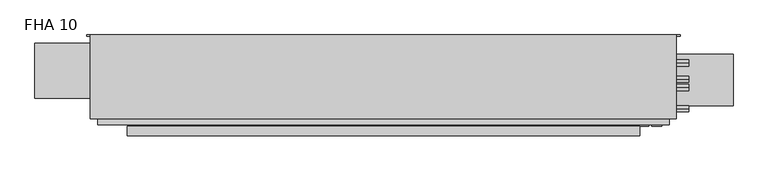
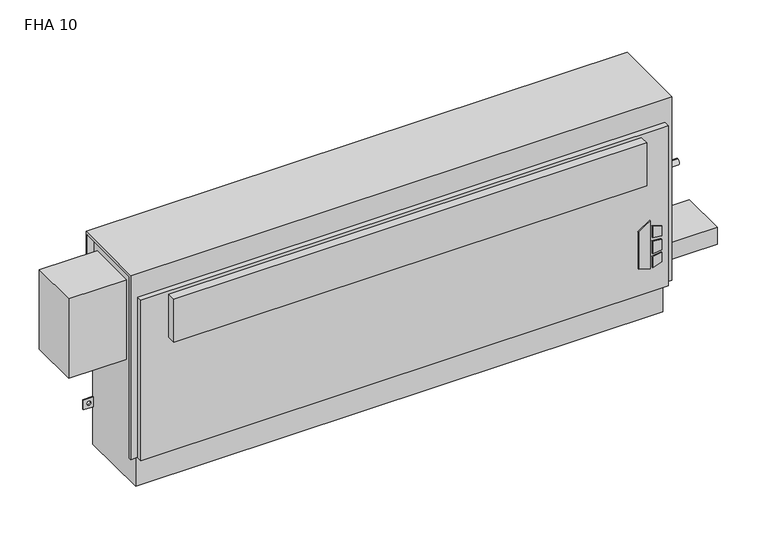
"""IFC4 building model written with IfcOpenShell, lengths in millimetres: proxy geometry, Vertical_Fan_Coil_Unit_-_FHA_-_IEC_-_4-Pipe_FS-FR_RH_2022 : FHA 10."""

from ifc_helpers import new_model, si_unit, point, frame, frame_2d, origin, place, context, project, spatial, polyline, circle_curve, trimmed, segment, composite_curve, outline, extrude, source, transform, mapped, element, save
from ifc_brep_helpers import plane_surface, revolved_surface, advanced_brep


def fha_10_a3db949a(model_context):
    return source(origin(), model_context, "Body", "SolidModel", [
        extrude(outline(polyline([(172.5771459, 804.9368862), (162.6290756, 837.1102728), (304.8, 837.1102728), (281.7779939, 804.9368862), (172.5771459, 804.9368862)])), frame((0.0, 9.525, 0.0), z_axis=(0.0, 1.0, 0.0), x_axis=(0.0, 0.0, 1.0)), (0.0, 0.0, 1.0), 3.175),
        extrude(outline(polyline([(251.5764313, 843.8686058), (248.3740387, 869.95), (277.6028798, 869.95), (285.6672948, 843.8686058), (251.5764313, 843.8686058)])), frame((0.0, 9.525, 0.0), z_axis=(0.0, 1.0, 0.0), x_axis=(0.0, 0.0, 1.0)), (0.0, 0.0, 1.0), 3.175),
        extrude(outline(polyline([(199.7129044, 869.95), (196.0474034, 843.8686058), (162.6290756, 843.8686058), (171.2633128, 869.95), (199.7129044, 869.95)])), frame((0.0, 9.525, 0.0), z_axis=(0.0, 1.0, 0.0), x_axis=(0.0, 0.0, 1.0)), (0.0, 0.0, 1.0), 3.175),
        extrude(outline(polyline([(239.0280658, 869.95), (241.3098921, 843.8686058), (205.3723436, 843.8686058), (208.1136086, 869.95), (239.0280658, 869.95)])), frame((0.0, 9.525, 0.0), z_axis=(0.0, 1.0, 0.0), x_axis=(0.0, 0.0, 1.0)), (0.0, 0.0, 1.0), 3.175),
        extrude(outline(composite_curve([segment(trimmed(circle_curve(frame_2d((952.5, 128.5875)), 9.525), [point((942.975, 128.5875))], [point((962.025, 128.5875))], False, "CARTESIAN"), True, "CONTINUOUS"), segment(trimmed(circle_curve(frame_2d((952.5, 128.5875)), 9.525), [point((962.025, 128.5875))], [point((942.975, 128.5875))], False, "CARTESIAN"), True, "CONTINUOUS")], self_intersect=False)), frame((0.0, 0.0, 101.6), z_axis=(0.0, 0.0, 1.0), x_axis=(1.0, 0.0, 0.0)), (0.0, 0.0, 1.0), 25.4),
        extrude(outline(polyline([(1054.1, 195.2625), (1054.1, 61.9125), (889.0, 61.9125), (889.0, 195.2625), (1054.1, 195.2625)])), frame((0.0, 0.0, 127.0), z_axis=(0.0, 0.0, 1.0), x_axis=(1.0, 0.0, 0.0)), (0.0, 0.0, 1.0), 50.8),
        extrude(outline(polyline([(812.8, -15.875), (-508.0, -15.875), (-508.0, 9.525), (812.8, 9.525), (812.8, -15.875)])), frame((0.0, 0.0, 431.8), z_axis=(0.0, 0.0, 1.0), x_axis=(1.0, 0.0, 0.0)), (0.0, 0.0, 1.0), 127.0),
        extrude(outline(composite_curve([segment(trimmed(circle_curve(frame_2d((109.0168, 460.0194)), 7.9375), [point((109.0168, 452.0819))], [point((109.0168, 467.9569))], False, "CARTESIAN"), True, "CONTINUOUS"), segment(trimmed(circle_curve(frame_2d((109.0168, 460.0194)), 7.9375), [point((109.0168, 467.9569))], [point((109.0168, 452.0819))], False, "CARTESIAN"), True, "CONTINUOUS")], self_intersect=False)), frame((889.0, 0.0, 0.0), z_axis=(1.0, 0.0, 0.0), x_axis=(0.0, 1.0, 0.0)), (0.0, 0.0, 1.0), 50.8),
        extrude(outline(composite_curve([segment(trimmed(circle_curve(frame_2d((172.085, 460.0194)), 7.9375), [point((172.085, 452.0819))], [point((172.085, 467.9569))], False, "CARTESIAN"), True, "CONTINUOUS"), segment(trimmed(circle_curve(frame_2d((172.085, 460.0194)), 7.9375), [point((172.085, 467.9569))], [point((172.085, 452.0819))], False, "CARTESIAN"), True, "CONTINUOUS")], self_intersect=False)), frame((889.0, 0.0, 0.0), z_axis=(1.0, 0.0, 0.0), x_axis=(0.0, 1.0, 0.0)), (0.0, 0.0, 1.0), 50.8),
        extrude(outline(composite_curve([segment(trimmed(circle_curve(frame_2d((130.175, 554.99)), 7.9502), [point((130.175, 547.0398))], [point((130.175, 562.9402))], False, "CARTESIAN"), True, "CONTINUOUS"), segment(trimmed(circle_curve(frame_2d((130.175, 554.99)), 7.9502), [point((130.175, 562.9402))], [point((130.175, 547.0398))], False, "CARTESIAN"), True, "CONTINUOUS")], self_intersect=False)), frame((889.0, 0.0, 0.0), z_axis=(1.0, 0.0, 0.0), x_axis=(0.0, 1.0, 0.0)), (0.0, 0.0, 1.0), 50.8),
        extrude(outline(composite_curve([segment(trimmed(circle_curve(frame_2d((53.975, 416.56)), 7.9502), [point((53.975, 408.6098))], [point((53.975, 424.5102))], False, "CARTESIAN"), True, "CONTINUOUS"), segment(trimmed(circle_curve(frame_2d((53.975, 416.56)), 7.9502), [point((53.975, 424.5102))], [point((53.975, 408.6098))], False, "CARTESIAN"), True, "CONTINUOUS")], self_intersect=False)), frame((889.0, 0.0, 0.0), z_axis=(1.0, 0.0, 0.0), x_axis=(0.0, 1.0, 0.0)), (0.0, 0.0, 1.0), 50.8),
        extrude(outline(polyline([(-584.2, 223.266), (-584.2, 81.534), (-746.125, 81.534), (-746.125, 223.266), (-584.2, 223.266)])), frame((0.0, 0.0, 349.25), z_axis=(0.0, 0.0, 1.0), x_axis=(1.0, 0.0, 0.0)), (0.0, 0.0, 1.0), 234.95),
        advanced_brep(
        [(908.05, 244.475, 635.0), (-603.25, 244.475, 635.0), (-603.25, 28.575, 635.0), (908.05, 28.575, 635.0), (-584.2, 244.475, 0.0), (889.0, 244.475, 0.0), (889.0, 38.1, 0.0), (-584.2, 38.1, 0.0), (908.05, 244.475, 558.8), (889.0, 244.475, 558.8), (889.0, 244.475, 414.3375), (917.575, 244.475, 414.3375), (917.575, 244.475, 385.7625), (889.0, 244.475, 385.7625), (889.0, 244.475, 287.3375), (917.575, 244.475, 287.3375), (917.575, 244.475, 258.7625), (889.0, 244.475, 258.7625), (889.0, 244.475, 141.2875), (917.575, 244.475, 141.2875), (917.575, 244.475, 112.7125), (889.0, 244.475, 112.7125), (-584.2, 244.475, 112.7125), (-612.775, 244.475, 112.7125), (-612.775, 244.475, 141.2875), (-584.2, 244.475, 141.2875), (-584.2, 244.475, 258.7625), (-612.775, 244.475, 258.7625), (-612.775, 244.475, 287.3375), (-584.2, 244.475, 287.3375), (-584.2, 244.475, 385.7625), (-612.775, 244.475, 385.7625), (-612.775, 244.475, 414.3375), (-584.2, 244.475, 414.3375), (-584.2, 244.475, 558.8), (-603.25, 244.475, 558.8), (907.2626, 244.475, 127.0), (896.1374, 244.475, 127.0), (-591.3374, 244.475, 127.0), (-602.4626, 244.475, 127.0), (907.2626, 244.475, 273.05), (896.1374, 244.475, 273.05), (-591.3374, 244.475, 273.05), (-602.4626, 244.475, 273.05), (907.2626, 244.475, 400.05), (896.1374, 244.475, 400.05), (-591.3374, 244.475, 400.05), (-602.4626, 244.475, 400.05), (-603.25, 238.125, 558.8), (-603.25, 238.125, 628.65), (-603.25, 34.925, 628.65), (-603.25, 34.925, 92.075), (-603.25, 28.575, 92.075), (889.0, 12.7, 565.15), (-584.2, 12.7, 565.15), (-584.2, 12.7, 92.075), (889.0, 12.7, 92.075), (908.05, 28.575, 92.075), (908.05, 34.925, 92.075), (908.05, 34.925, 628.65), (908.05, 238.125, 628.65), (908.05, 238.125, 558.8), (-584.2, 28.575, 92.075), (-584.2, 28.575, 565.15), (889.0, 28.575, 565.15), (889.0, 28.575, 92.075), (-584.2, 34.925, 92.075), (-584.2, 38.1, 92.075), (889.0, 38.1, 92.075), (889.0, 34.925, 92.075), (889.0, 241.3, 112.7125), (889.0, 241.3, 141.2875), (889.0, 241.3, 258.7625), (889.0, 241.3, 287.3375), (889.0, 241.3, 385.7625), (889.0, 241.3, 414.3375), (889.0, 238.125, 558.8), (889.0, 238.125, 628.65), (889.0, 34.925, 628.65), (-584.2, 34.925, 628.65), (-584.2, 238.125, 628.65), (-584.2, 238.125, 558.8), (-584.2, 241.3, 414.3375), (-584.2, 241.3, 385.7625), (-584.2, 241.3, 287.3375), (-584.2, 241.3, 258.7625), (-584.2, 241.3, 141.2875), (-584.2, 241.3, 112.7125), (917.575, 241.3, 112.7125), (917.575, 241.3, 141.2875), (896.1374, 241.3, 127.0), (907.2626, 241.3, 127.0), (917.575, 241.3, 258.7625), (917.575, 241.3, 287.3375), (896.1374, 241.3, 273.05), (907.2626, 241.3, 273.05), (917.575, 241.3, 385.7625), (917.575, 241.3, 414.3375), (896.1374, 241.3, 400.05), (907.2626, 241.3, 400.05), (-612.775, 241.3, 141.2875), (-612.775, 241.3, 112.7125), (-602.4626, 241.3, 127.0), (-591.3374, 241.3, 127.0), (-612.775, 241.3, 287.3375), (-612.775, 241.3, 258.7625), (-602.4626, 241.3, 273.05), (-591.3374, 241.3, 273.05), (-612.775, 241.3, 414.3375), (-612.775, 241.3, 385.7625), (-602.4626, 241.3, 400.05), (-591.3374, 241.3, 400.05)],
        [
            (0, 1),
            (1, 2),
            (2, 3),
            (3, 0),
            (4, 5),
            (5, 6),
            (6, 7),
            (7, 4),
            (0, 8),
            (8, 9),
            (9, 10),
            (10, 11),
            (11, 12),
            (12, 13),
            (13, 14),
            (14, 15),
            (15, 16),
            (16, 17),
            (17, 18),
            (18, 19),
            (19, 20),
            (20, 21),
            (21, 5),
            (4, 22),
            (22, 23),
            (23, 24),
            (24, 25),
            (25, 26),
            (26, 27),
            (27, 28),
            (28, 29),
            (29, 30),
            (30, 31),
            (31, 32),
            (32, 33),
            (33, 34),
            (34, 35),
            (35, 1),
            (36, 37, circle_curve(frame((901.7, 244.475, 127.0), z_axis=(0.0, -1.0, 0.0), x_axis=(-1.0, 0.0, 0.0)), 5.5626)),
            (37, 36, circle_curve(frame((901.7, 244.475, 127.0), z_axis=(0.0, -1.0, 0.0), x_axis=(-1.0, 0.0, 0.0)), 5.5626)),
            (38, 39, circle_curve(frame((-596.9, 244.475, 127.0), z_axis=(0.0, -1.0, 0.0), x_axis=(-1.0, 0.0, 0.0)), 5.5626)),
            (39, 38, circle_curve(frame((-596.9, 244.475, 127.0), z_axis=(0.0, -1.0, 0.0), x_axis=(-1.0, 0.0, 0.0)), 5.5626)),
            (40, 41, circle_curve(frame((901.7, 244.475, 273.05), z_axis=(0.0, -1.0, 0.0), x_axis=(-1.0, 0.0, 0.0)), 5.5626)),
            (41, 40, circle_curve(frame((901.7, 244.475, 273.05), z_axis=(0.0, -1.0, 0.0), x_axis=(-1.0, 0.0, 0.0)), 5.5626)),
            (42, 43, circle_curve(frame((-596.9, 244.475, 273.05), z_axis=(0.0, -1.0, 0.0), x_axis=(-1.0, 0.0, 0.0)), 5.5626)),
            (43, 42, circle_curve(frame((-596.9, 244.475, 273.05), z_axis=(0.0, -1.0, 0.0), x_axis=(-1.0, 0.0, 0.0)), 5.5626)),
            (44, 45, circle_curve(frame((901.7, 244.475, 400.05), z_axis=(0.0, -1.0, 0.0), x_axis=(-1.0, 0.0, 0.0)), 5.5626)),
            (45, 44, circle_curve(frame((901.7, 244.475, 400.05), z_axis=(0.0, -1.0, 0.0), x_axis=(-1.0, 0.0, 0.0)), 5.5626)),
            (46, 47, circle_curve(frame((-596.9, 244.475, 400.05), z_axis=(0.0, -1.0, 0.0), x_axis=(-1.0, 0.0, 0.0)), 5.5626)),
            (47, 46, circle_curve(frame((-596.9, 244.475, 400.05), z_axis=(0.0, -1.0, 0.0), x_axis=(-1.0, 0.0, 0.0)), 5.5626)),
            (35, 48),
            (48, 49),
            (49, 50),
            (50, 51),
            (51, 52),
            (52, 2),
            (53, 54),
            (54, 55),
            (55, 56),
            (56, 53),
            (3, 57),
            (57, 58),
            (58, 59),
            (59, 60),
            (60, 61),
            (61, 8),
            (52, 62),
            (62, 63),
            (63, 64),
            (64, 65),
            (65, 57),
            (53, 64),
            (63, 54),
            (55, 62),
            (51, 66),
            (66, 67),
            (67, 68),
            (68, 69),
            (69, 58),
            (65, 56),
            (6, 68),
            (67, 7),
            (21, 70),
            (70, 71),
            (71, 18),
            (17, 72),
            (72, 73),
            (73, 14),
            (13, 74),
            (74, 75),
            (75, 10),
            (9, 76),
            (76, 77),
            (77, 78),
            (78, 69),
            (66, 79),
            (79, 80),
            (80, 81),
            (81, 34),
            (33, 82),
            (82, 83),
            (83, 30),
            (29, 84),
            (84, 85),
            (85, 26),
            (25, 86),
            (86, 87),
            (87, 22),
            (76, 61),
            (60, 77),
            (78, 59),
            (50, 79),
            (81, 48),
            (80, 49),
            (70, 88),
            (88, 89),
            (89, 71),
            (90, 91, circle_curve(frame((901.7, 241.3, 127.0), z_axis=(0.0, 1.0, 0.0), x_axis=(-1.0, 0.0, 0.0)), 5.5626)),
            (91, 90, circle_curve(frame((901.7, 241.3, 127.0), z_axis=(0.0, 1.0, 0.0), x_axis=(-1.0, 0.0, 0.0)), 5.5626)),
            (92, 93),
            (93, 73),
            (72, 92),
            (94, 95, circle_curve(frame((901.7, 241.3, 273.05), z_axis=(0.0, 1.0, 0.0), x_axis=(-1.0, 0.0, 0.0)), 5.5626)),
            (95, 94, circle_curve(frame((901.7, 241.3, 273.05), z_axis=(0.0, 1.0, 0.0), x_axis=(-1.0, 0.0, 0.0)), 5.5626)),
            (96, 97),
            (97, 75),
            (74, 96),
            (98, 99, circle_curve(frame((901.7, 241.3, 400.05), z_axis=(0.0, 1.0, 0.0), x_axis=(-1.0, 0.0, 0.0)), 5.5626)),
            (99, 98, circle_curve(frame((901.7, 241.3, 400.05), z_axis=(0.0, 1.0, 0.0), x_axis=(-1.0, 0.0, 0.0)), 5.5626)),
            (100, 101),
            (101, 87),
            (86, 100),
            (102, 103, circle_curve(frame((-596.9, 241.3, 127.0), z_axis=(0.0, 1.0, 0.0), x_axis=(-1.0, 0.0, 0.0)), 5.5626)),
            (103, 102, circle_curve(frame((-596.9, 241.3, 127.0), z_axis=(0.0, 1.0, 0.0), x_axis=(-1.0, 0.0, 0.0)), 5.5626)),
            (84, 104),
            (104, 105),
            (105, 85),
            (106, 107, circle_curve(frame((-596.9, 241.3, 273.05), z_axis=(0.0, 1.0, 0.0), x_axis=(-1.0, 0.0, 0.0)), 5.5626)),
            (107, 106, circle_curve(frame((-596.9, 241.3, 273.05), z_axis=(0.0, 1.0, 0.0), x_axis=(-1.0, 0.0, 0.0)), 5.5626)),
            (108, 109),
            (109, 83),
            (82, 108),
            (110, 111, circle_curve(frame((-596.9, 241.3, 400.05), z_axis=(0.0, 1.0, 0.0), x_axis=(-1.0, 0.0, 0.0)), 5.5626)),
            (111, 110, circle_curve(frame((-596.9, 241.3, 400.05), z_axis=(0.0, 1.0, 0.0), x_axis=(-1.0, 0.0, 0.0)), 5.5626)),
            (89, 19),
            (88, 20),
            (16, 92),
            (93, 15),
            (12, 96),
            (97, 11),
            (24, 100),
            (101, 23),
            (105, 27),
            (104, 28),
            (32, 108),
            (109, 31),
            (90, 37),
            (36, 91),
            (102, 39),
            (38, 103),
            (94, 41),
            (40, 95),
            (106, 43),
            (42, 107),
            (98, 45),
            (44, 99),
            (110, 47),
            (46, 111),
        ],
        [
            plane_surface(frame((-603.25, 244.475, 635.0), z_axis=(0.0, 0.0, 1.0), x_axis=(-1.0, 0.0, 0.0))),
            plane_surface(frame((-603.25, 244.475, 0.0), z_axis=(0.0, 0.0, -1.0), x_axis=(1.0, 0.0, 0.0))),
            plane_surface(frame((908.05, 244.475, 635.0), z_axis=(0.0, 1.0, 0.0), x_axis=(0.0, 0.0, -1.0))),
            plane_surface(frame((-603.25, 244.475, 635.0), z_axis=(-1.0, 0.0, 0.0), x_axis=(0.0, 0.0, -1.0))),
            plane_surface(frame((-603.25, 12.7, 635.0), z_axis=(0.0, -1.0, 0.0), x_axis=(0.0, 0.0, -1.0))),
            plane_surface(frame((908.05, 12.7, 635.0), z_axis=(1.0, 0.0, 0.0), x_axis=(0.0, 0.0, -1.0))),
            plane_surface(frame((-1060.45, 28.575, 635.0), z_axis=(0.0, -1.0, 0.0), x_axis=(1.0, 0.0, 0.0))),
            plane_surface(frame((-1060.45, 28.575, 565.15), z_axis=(0.0, 0.0, 1.0), x_axis=(1.0, 0.0, 0.0))),
            plane_surface(frame((-603.25, 12.7, 92.075), z_axis=(0.0, 0.0, -1.0), x_axis=(1.0, 0.0, 0.0))),
            plane_surface(frame((-603.25, 38.1, 92.075), z_axis=(0.0, -1.0, 0.0), x_axis=(1.0, 0.0, 0.0))),
            plane_surface(frame((889.0, 28.575, 92.075), z_axis=(1.0, 0.0, 0.0), x_axis=(0.0, -1.0, 0.0))),
            plane_surface(frame((-584.2, 28.575, 565.15), z_axis=(-1.0, 0.0, 0.0), x_axis=(0.0, -1.0, 0.0))),
            plane_surface(frame((889.0, 244.475, 0.0), z_axis=(1.0, 0.0, 0.0), x_axis=(0.0, -1.0, 0.0))),
            plane_surface(frame((-584.2, 244.475, 92.075), z_axis=(-1.0, 0.0, 0.0), x_axis=(0.0, -1.0, 0.0))),
            plane_surface(frame((889.0, 238.125, 628.65), z_axis=(0.0, -1.0, 0.0), x_axis=(1.0, 0.0, 0.0))),
            plane_surface(frame((889.0, 238.125, 558.8), z_axis=(0.0, 0.0, -1.0), x_axis=(1.0, 0.0, 0.0))),
            plane_surface(frame((889.0, 34.925, 92.075), z_axis=(0.0, 1.0, 0.0), x_axis=(1.0, 0.0, 0.0))),
            plane_surface(frame((889.0, 34.925, 628.65), z_axis=(0.0, 0.0, -1.0), x_axis=(1.0, 0.0, 0.0))),
            plane_surface(frame((-584.2, 34.925, 628.65), z_axis=(0.0, 1.0, 0.0), x_axis=(-1.0, 0.0, 0.0))),
            plane_surface(frame((-584.2, 244.475, 558.8), z_axis=(0.0, 0.0, -1.0), x_axis=(-1.0, 0.0, 0.0))),
            plane_surface(frame((-584.2, 238.125, 558.8), z_axis=(0.0, -1.0, 0.0), x_axis=(-1.0, 0.0, 0.0))),
            plane_surface(frame((-584.2, 238.125, 628.65), z_axis=(0.0, 0.0, -1.0), x_axis=(-1.0, 0.0, 0.0))),
            plane_surface(frame((917.575, 241.3, 141.2875), z_axis=(0.0, -1.0, 0.0), x_axis=(-1.0, 0.0, 0.0))),
            plane_surface(frame((889.0, 244.475, 141.2875), z_axis=(0.0, 0.0, 1.0), x_axis=(0.0, -1.0, 0.0))),
            plane_surface(frame((917.575, 244.475, 141.2875), z_axis=(1.0, 0.0, 0.0), x_axis=(0.0, -1.0, 0.0))),
            plane_surface(frame((917.575, 244.475, 112.7125), z_axis=(0.0, 0.0, -1.0), x_axis=(0.0, -1.0, 0.0))),
            plane_surface(frame((917.575, 244.475, 258.7625), z_axis=(0.0, 0.0, -1.0), x_axis=(0.0, -1.0, 0.0))),
            plane_surface(frame((889.0, 244.475, 287.3375), z_axis=(0.0, 0.0, 1.0), x_axis=(0.0, -1.0, 0.0))),
            plane_surface(frame((917.575, 244.475, 287.3375), z_axis=(1.0, 0.0, 0.0), x_axis=(0.0, -1.0, 0.0))),
            plane_surface(frame((917.575, 244.475, 385.7625), z_axis=(0.0, 0.0, -1.0), x_axis=(0.0, -1.0, 0.0))),
            plane_surface(frame((889.0, 244.475, 414.3375), z_axis=(0.0, 0.0, 1.0), x_axis=(0.0, -1.0, 0.0))),
            plane_surface(frame((917.575, 244.475, 414.3375), z_axis=(1.0, 0.0, 0.0), x_axis=(0.0, -1.0, 0.0))),
            plane_surface(frame((-612.775, 244.475, 141.2875), z_axis=(0.0, 0.0, 1.0), x_axis=(0.0, -1.0, 0.0))),
            plane_surface(frame((-584.2, 244.475, 112.7125), z_axis=(0.0, 0.0, -1.0), x_axis=(0.0, -1.0, 0.0))),
            plane_surface(frame((-612.775, 244.475, 112.7125), z_axis=(-1.0, 0.0, 0.0), x_axis=(0.0, -1.0, 0.0))),
            plane_surface(frame((-584.2, 244.475, 258.7625), z_axis=(0.0, 0.0, -1.0), x_axis=(0.0, -1.0, 0.0))),
            plane_surface(frame((-612.775, 244.475, 258.7625), z_axis=(-1.0, 0.0, 0.0), x_axis=(0.0, -1.0, 0.0))),
            plane_surface(frame((-612.775, 244.475, 287.3375), z_axis=(0.0, 0.0, 1.0), x_axis=(0.0, -1.0, 0.0))),
            plane_surface(frame((-612.775, 244.475, 414.3375), z_axis=(0.0, 0.0, 1.0), x_axis=(0.0, -1.0, 0.0))),
            plane_surface(frame((-584.2, 244.475, 385.7625), z_axis=(0.0, 0.0, -1.0), x_axis=(0.0, -1.0, 0.0))),
            plane_surface(frame((-612.775, 244.475, 385.7625), z_axis=(-1.0, 0.0, 0.0), x_axis=(0.0, -1.0, 0.0))),
            revolved_surface(polyline([(896.1374000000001, 241.3, 127.0), (896.1374000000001, 244.475, 127.0)]), (901.7, 244.475, 127.0), (0.0, -1.0, 0.0)),
            revolved_surface(polyline([(-602.4626, 241.3, 127.0), (-602.4626, 244.475, 127.0)]), (-596.9, 244.475, 127.0), (0.0, -1.0, 0.0)),
            revolved_surface(polyline([(896.1374000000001, 241.3, 273.05), (896.1374000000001, 244.475, 273.05)]), (901.7, 244.475, 273.05), (0.0, -1.0, 0.0)),
            revolved_surface(polyline([(-602.4626, 241.3, 273.05), (-602.4626, 244.475, 273.05)]), (-596.9, 244.475, 273.05), (0.0, -1.0, 0.0)),
            revolved_surface(polyline([(896.1374000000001, 241.3, 400.05), (896.1374000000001, 244.475, 400.05)]), (901.7, 244.475, 400.05), (0.0, -1.0, 0.0)),
            revolved_surface(polyline([(-602.4626, 241.3, 400.05), (-602.4626, 244.475, 400.05)]), (-596.9, 244.475, 400.05), (0.0, -1.0, 0.0)),
        ],
        [
            (0, [[1, 2, 3, 4]]),
            (1, [[5, 6, 7, 8]]),
            (2, [[-1, 9, 10, 11, 12, 13, 14, 15, 16, 17, 18, 19, 20, 21, 22, 23, -5, 24, 25, 26, 27, 28, 29, 30, 31, 32, 33, 34, 35, 36, 37, 38], [39, 40], [41, 42], [43, 44], [45, 46], [47, 48], [49, 50]]),
            (3, [[-2, -38, 51, 52, 53, 54, 55, 56]]),
            (4, [[57, 58, 59, 60]]),
            (5, [[-4, 61, 62, 63, 64, 65, 66, -9]]),
            (6, [[-3, -56, 67, 68, 69, 70, 71, -61]]),
            (7, [[-57, 72, -69, 73]]),
            (8, [[-59, 74, -67, -55, 75, 76, 77, 78, 79, -62, -71, 80]]),
            (9, [[-7, 81, -77, 82]]),
            (10, [[-70, -72, -60, -80]]),
            (11, [[-68, -74, -58, -73]]),
            (12, [[-6, -23, 83, 84, 85, -19, 86, 87, 88, -15, 89, 90, 91, -11, 92, 93, 94, 95, -78, -81]]),
            (13, [[-8, -82, -76, 96, 97, 98, 99, -36, 100, 101, 102, -32, 103, 104, 105, -28, 106, 107, 108, -24]]),
            (14, [[-93, 109, -65, 110]]),
            (15, [[-92, -10, -66, -109]]),
            (16, [[-95, 111, -63, -79]]),
            (17, [[-94, -110, -64, -111]]),
            (18, [[-96, -75, -54, 112]]),
            (19, [[-99, 113, -51, -37]]),
            (20, [[-98, 114, -52, -113]]),
            (21, [[-97, -112, -53, -114]]),
            (22, [[115, 116, 117, -84], [118, 119]]),
            (22, [[120, 121, -87, 122], [123, 124]]),
            (22, [[125, 126, -90, 127], [128, 129]]),
            (22, [[130, 131, -107, 132], [133, 134]]),
            (22, [[135, 136, 137, -104], [138, 139]]),
            (22, [[140, 141, -101, 142], [143, 144]]),
            (23, [[-117, 145, -20, -85]]),
            (24, [[-116, 146, -21, -145]]),
            (25, [[-115, -83, -22, -146]]),
            (26, [[-122, -86, -18, 147]]),
            (27, [[-121, 148, -16, -88]]),
            (28, [[-120, -147, -17, -148]]),
            (29, [[-127, -89, -14, 149]]),
            (30, [[-126, 150, -12, -91]]),
            (31, [[-125, -149, -13, -150]]),
            (32, [[-132, -106, -27, 151]]),
            (33, [[-131, 152, -25, -108]]),
            (34, [[-130, -151, -26, -152]]),
            (35, [[-137, 153, -29, -105]]),
            (36, [[-136, 154, -30, -153]]),
            (37, [[-135, -103, -31, -154]]),
            (38, [[-142, -100, -35, 155]]),
            (39, [[-141, 156, -33, -102]]),
            (40, [[-140, -155, -34, -156]]),
            (41, [[157, -39, 158, -118]]),
            (41, [[-157, -119, -158, -40]]),
            (42, [[159, -41, 160, -133]]),
            (42, [[-159, -134, -160, -42]]),
            (43, [[161, -43, 162, -123]]),
            (43, [[-161, -124, -162, -44]]),
            (44, [[163, -45, 164, -138]]),
            (44, [[-163, -139, -164, -46]]),
            (45, [[165, -47, 166, -128]]),
            (45, [[-165, -129, -166, -48]]),
            (46, [[167, -49, 168, -143]]),
            (46, [[-167, -144, -168, -50]]),
        ],
    ),
    ])


if __name__ == "__main__":
    model = new_model("IFC4")
    model_context = context("Model", 3, world=origin())
    ifc_project = project(units=[si_unit("LENGTHUNIT", "METRE", prefix="MILLI")], contexts=[model_context])
    site = spatial("IfcSite", under=ifc_project)
    building = spatial("IfcBuilding", under=site)
    placement = place(None, origin())
    fha_10_shape = fha_10_a3db949a(model_context)
    element("IfcBuildingElementProxy", 1, Name="Vertical_Fan_Coil_Unit_-_FHA_-_IEC_-_4-Pipe_FS-FR_RH_2022 : FHA 10", ObjectType="Vertical_Fan_Coil_Unit_-_FHA_-_IEC_-_4-Pipe_FS-FR_RH_2022 : FHA 10", at=placement, inside=building, context=model_context, shape_type="MappedRepresentation", body=[
        mapped(fha_10_shape, transform((0.0, 0.0, 0.0), x_axis=(1.0, 0.0, 0.0), y_axis=(0.0, 1.0, 0.0), z_axis=(0.0, 0.0, 1.0))),
    ])
    save(model, "model.ifc")
